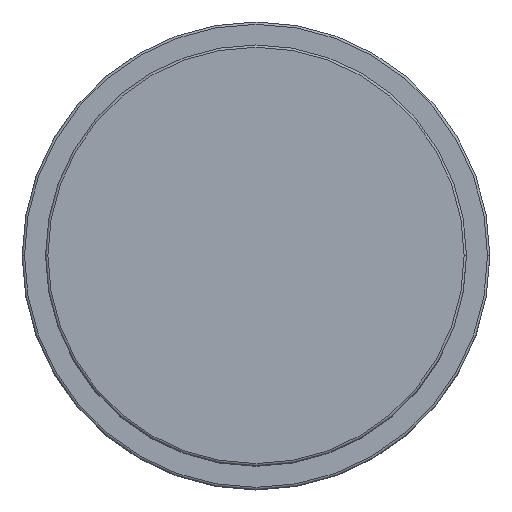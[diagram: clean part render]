
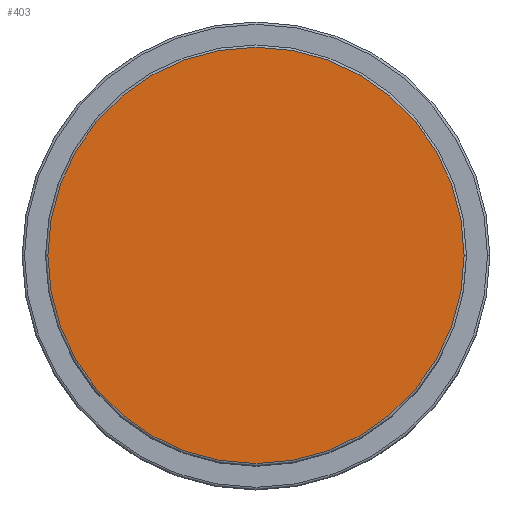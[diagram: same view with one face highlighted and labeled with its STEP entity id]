
A CAD part, top view. The second image highlights one B-rep face of the part: STEP entity #403.
In plain terms, the highlighted planar face has unit normal (0, 0, 1).
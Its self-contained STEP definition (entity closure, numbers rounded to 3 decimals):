
#7 = ORIENTED_EDGE ( 'NONE', *, *, #1123, .T. ) ;
#96 = CARTESIAN_POINT ( 'NONE',  ( 0., 0., 72. ) ) ;
#112 = CARTESIAN_POINT ( 'NONE',  ( 0., 0., 72. ) ) ;
#326 = CARTESIAN_POINT ( 'NONE',  ( -44.5, 0., 72. ) ) ;
#403 = ADVANCED_FACE ( 'NONE', ( #1567 ), #1164, .T. ) ;
#598 = AXIS2_PLACEMENT_3D ( 'NONE', #96, #912, #1036 ) ;
#879 = CIRCLE ( 'NONE', #1389, 44.5 ) ;
#912 = DIRECTION ( 'NONE',  ( 0., 0., 1. ) ) ;
#935 = DIRECTION ( 'NONE',  ( 1., 0., 0. ) ) ;
#975 = CIRCLE ( 'NONE', #1580, 44.5 ) ;
#1007 = VERTEX_POINT ( 'NONE', #1722 ) ;
#1020 = EDGE_CURVE ( 'NONE', #1007, #1256, #879, .T. ) ;
#1032 = DIRECTION ( 'NONE',  ( 0., 0., 1. ) ) ;
#1036 = DIRECTION ( 'NONE',  ( 1., 0., 0. ) ) ;
#1058 = CARTESIAN_POINT ( 'NONE',  ( 0., 0., 72. ) ) ;
#1123 = EDGE_CURVE ( 'NONE', #1256, #1007, #975, .T. ) ;
#1164 = PLANE ( 'NONE',  #598 ) ;
#1183 = DIRECTION ( 'NONE',  ( 1., 0., 0. ) ) ;
#1256 = VERTEX_POINT ( 'NONE', #326 ) ;
#1389 = AXIS2_PLACEMENT_3D ( 'NONE', #112, #1032, #1183 ) ;
#1432 = ORIENTED_EDGE ( 'NONE', *, *, #1020, .T. ) ;
#1567 = FACE_OUTER_BOUND ( 'NONE', #1741, .T. ) ;
#1580 = AXIS2_PLACEMENT_3D ( 'NONE', #1058, #1757, #935 ) ;
#1722 = CARTESIAN_POINT ( 'NONE',  ( 44.5, 0., 72. ) ) ;
#1741 = EDGE_LOOP ( 'NONE', ( #1432, #7 ) ) ;
#1757 = DIRECTION ( 'NONE',  ( 0., 0., 1. ) ) ;
